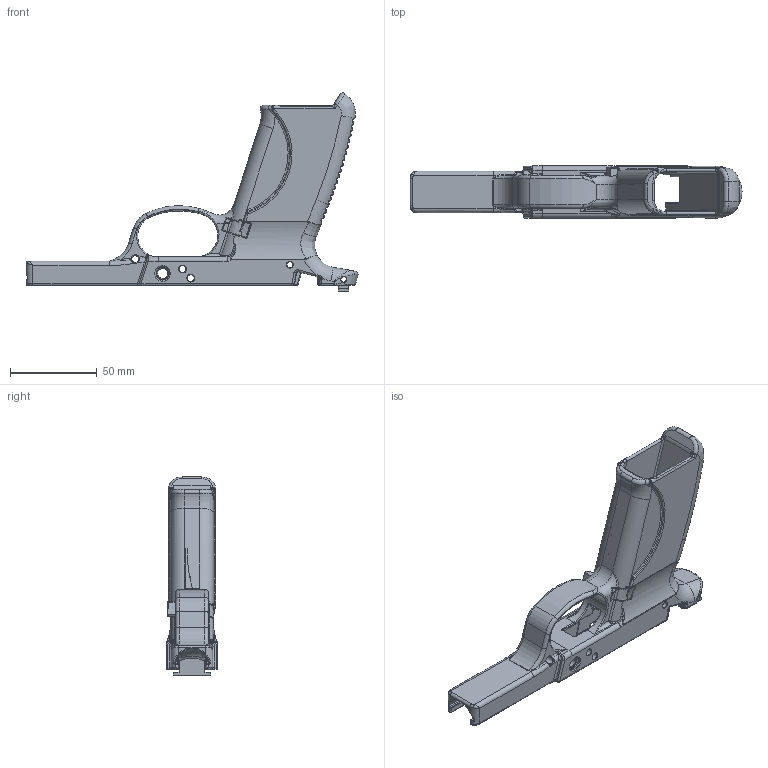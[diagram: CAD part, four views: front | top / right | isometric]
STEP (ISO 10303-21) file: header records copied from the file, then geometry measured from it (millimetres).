
FILE_DESCRIPTION(/* description */ (''),/* implementation_level */ '2;1');
FILE_NAME(/* name */ '/var/folders/q3/90_s8p4j77vgml143qxzs9nh0000gn/T/com.autodesk.mas.fusion360/Neutron/0bd4680d-a830-4799-83d2-aa42fbc88a1e.stp',/* time_stamp */ '2019-06-02T13:09:54-04:00',/* author */ ('suzuki450ltr'),/* organization */ (''),/* preprocessor_version */ 'ST-DEVELOPER v18',/* originating_system */ 'Autodesk Translation Framework v8.2.0.1029',/* authorisation */ '');
FILE_SCHEMA (('AUTOMOTIVE_DESIGN { 1 0 10303 214 3 1 1 }'));
Products named in the file (3): SR9; Mag Catch SR9; SR9 Rear Rail
Assembly tree (2 placements, depth 2):
  SR9
    Mag Catch SR9
    SR9 Rear Rail
Bounding box: 191.67 x 30 x 114.42 mm (x, y, z)
Volume: 81192.7 mm3; surface area: 50857.8 mm2
Topology: 3 solids, 3 shells, 1460 faces, 3482 edges, 1927 vertices
Faces by surface type: cylinder 516, bspline 481, plane 205, torus 186, sphere 37, cone 35
Full cylindrical faces by diameter (mm): 3.175 x3, 3.5 x1, 4 x6, 4.36 x1, 5.8 x2, 8 x1
Entity records: 58516 total; most frequent: CARTESIAN_POINT 27198, ORIENTED_EDGE 6794, DIRECTION 6214, EDGE_CURVE 3397, AXIS2_PLACEMENT_3D 2555, VERTEX_POINT 1928, EDGE_LOOP 1481, FACE_OUTER_BOUND 1460
